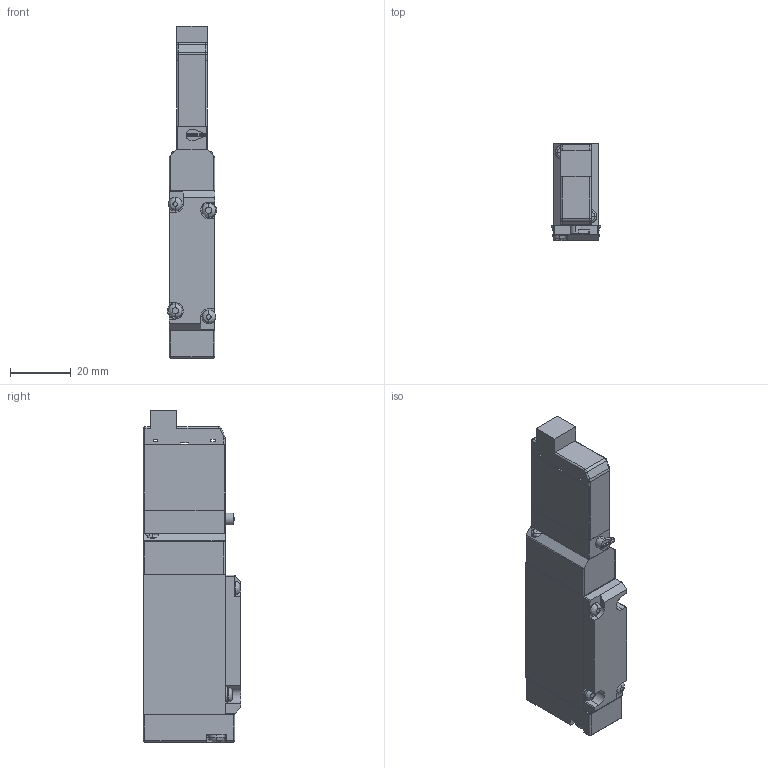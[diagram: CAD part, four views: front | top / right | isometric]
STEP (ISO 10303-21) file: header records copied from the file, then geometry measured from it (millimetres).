
FILE_DESCRIPTION( (''), '2;1');
FILE_NAME ('CVICAD02.3360.F15T0-R-A1-PN_21436.stp','2021-07-12T19:12:32',(''),(''),'spGate 12.6.6','','');
FILE_SCHEMA (('AUTOMOTIVE_DESIGN'));
Length unit declared in the file: millimetre
Products named in the file (7): Assembly; CVICAD02-prt0; CVICAD02-prt1; CVICAD02-prt2; CVICAD02-prt3; CVICAD02-prt4; CVICAD02-prt5
Assembly tree (6 placements, depth 2):
  Assembly
    CVICAD02-prt0
    CVICAD02-prt1
    CVICAD02-prt2
    CVICAD02-prt3
    CVICAD02-prt4
    CVICAD02-prt5
Bounding box: 16.2 x 32 x 109 mm (x, y, z)
Volume: 40134.5 mm3; surface area: 15366.8 mm2
Topology: 6 solids, 6 shells, 277 faces, 694 edges, 433 vertices
Faces by surface type: plane 131, cylinder 113, bspline 24, sphere 9
Entity records: 14238 total; most frequent: CARTESIAN_POINT 2091, ORIENTED_EDGE 1362, DIRECTION 1329, COLOUR_RGB 964, PRESENTATION_STYLE_ASSIGNMENT 964, STYLED_ITEM 964, EDGE_CURVE 681, DRAUGHTING_PRE_DEFINED_CURVE_FONT 681
